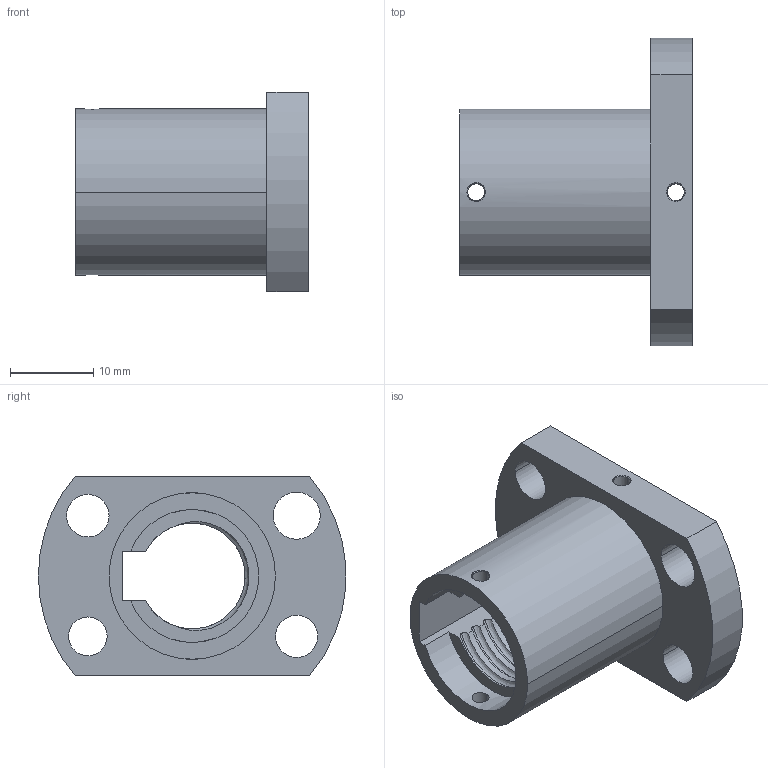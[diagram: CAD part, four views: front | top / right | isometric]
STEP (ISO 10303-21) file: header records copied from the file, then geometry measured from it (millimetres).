
FILE_DESCRIPTION (( 'STEP AP214' ), '1' );
FILE_NAME ('SFE1202-直列式.STEP', '2021-10-28T09:16:44', ( '' ), ( '' ), 'SwSTEP 2.0', 'SolidWorks 2021', '' );
FILE_SCHEMA (( 'AUTOMOTIVE_DESIGN' ));
Length unit declared in the file: millimetre
Products named in the file (1): SFE1202-直列式
Bounding box: 28 x 36.94 x 24 mm (x, y, z)
Volume: 6291.1 mm3; surface area: 5026.7 mm2
Topology: 1 solids, 1 shells, 71 faces, 200 edges, 132 vertices
Faces by surface type: cylinder 35, bspline 24, plane 10, cone 2
Entity records: 39523 total; most frequent: CARTESIAN_POINT 37844, ORIENTED_EDGE 400, DIRECTION 243, EDGE_CURVE 200, VERTEX_POINT 132, EDGE_LOOP 90, AXIS2_PLACEMENT_3D 88, FACE_OUTER_BOUND 71
